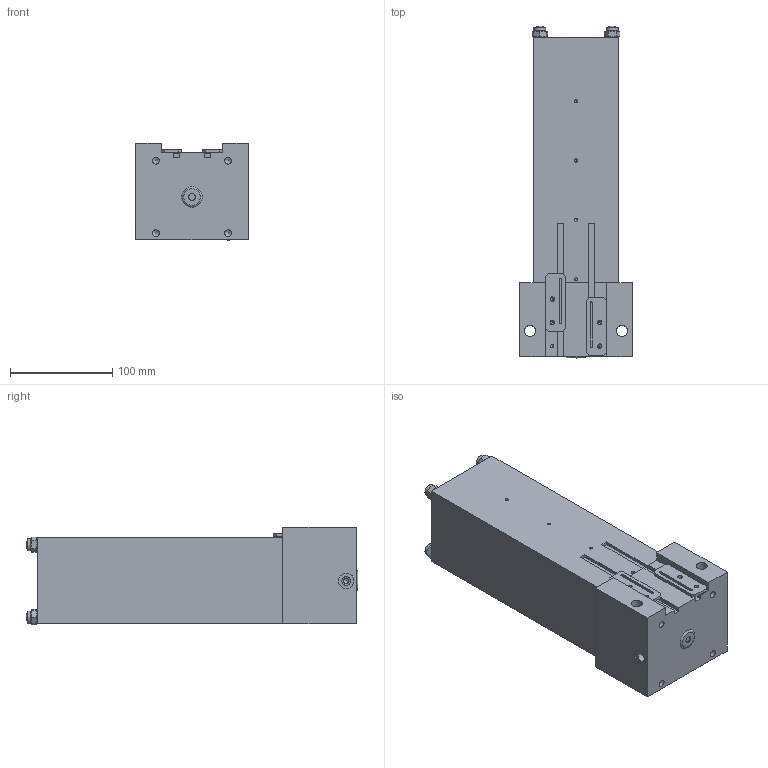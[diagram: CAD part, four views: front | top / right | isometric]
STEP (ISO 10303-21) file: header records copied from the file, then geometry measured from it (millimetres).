
FILE_DESCRIPTION((''),'2;1');
FILE_NAME('C:\VaultWork\Zeichnungen\Maßblätter\Multizylinder\M 75\M75-40\M01855-4-0 Maßblatt Multizylinder M75-5-40 Berührungslose Abfrage.stp','2014-01-23T16:28:01',('Sergeew'),(''),'Autodesk Inventor 2012','Autodesk Inventor 2012','');
FILE_SCHEMA(('AUTOMOTIVE_DESIGN { 1 0 10303 214 1 1 1 1 }'));
Length unit declared in the file: millimetre
Products named in the file (1): M01855-4-0 Maßblatt Multizylinder M75-5-40 Berührungslose Abfrage
Bounding box: 110 x 324.5 x 95.36 mm (x, y, z)
Volume: 2381345.9 mm3; surface area: 149475.7 mm2
Topology: 1 solids, 6 shells, 185 faces, 446 edges, 288 vertices
Faces by surface type: plane 103, cylinder 45, cone 36, torus 1
Full cylindrical faces by diameter (mm): 3 x4, 3.242 x6, 4.3 x4, 5 x1, 6.647 x5, 8 x8, 8.566 x2, 9 x4, 11 x2, 11.6 x4, 15 x1
Entity records: 4805 total; most frequent: CARTESIAN_POINT 866, DIRECTION 764, ORIENTED_EDGE 664, EDGE_CURVE 332, AXIS2_PLACEMENT_3D 294, EDGE_LOOP 290, VERTEX_POINT 252, FACE_OUTER_BOUND 185
